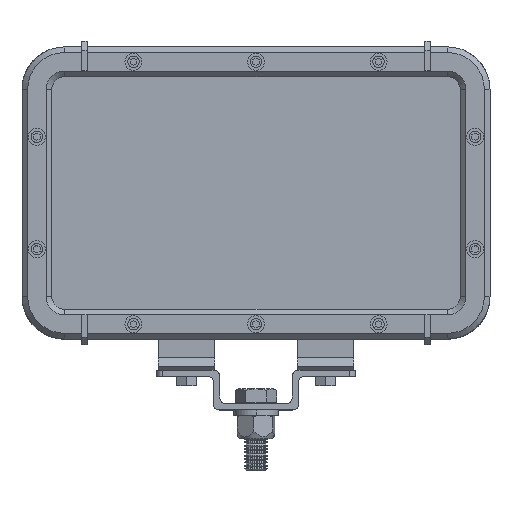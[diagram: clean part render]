
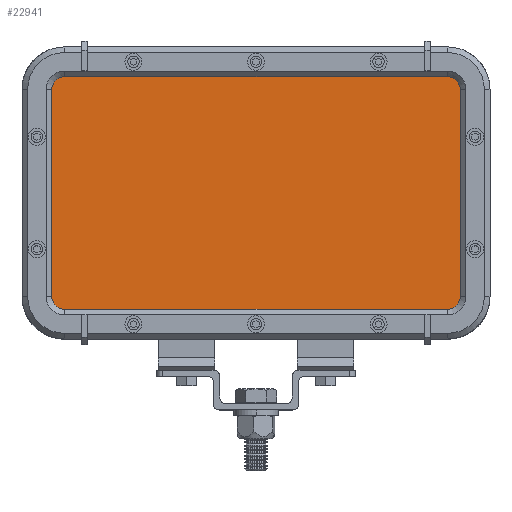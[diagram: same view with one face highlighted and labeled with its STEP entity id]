
A CAD part, top view. The second image highlights one B-rep face of the part: STEP entity #22941.
In plain terms, the highlighted planar face has unit normal (0, 0, 1).
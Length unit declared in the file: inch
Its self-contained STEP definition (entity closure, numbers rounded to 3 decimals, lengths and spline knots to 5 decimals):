
#122 = EDGE_CURVE ( 'NONE', #13966, #10647, #2740, .T. ) ;
#463 = LINE ( 'NONE', #17890, #1412 ) ;
#1273 = ORIENTED_EDGE ( 'NONE', *, *, #3769, .T. ) ;
#1412 = VECTOR ( 'NONE', #15753, 39.37008 ) ;
#1488 = CARTESIAN_POINT ( 'NONE',  ( 3.6, -1.825, -0.3 ) ) ;
#2740 = LINE ( 'NONE', #17754, #3317 ) ;
#3126 = DIRECTION ( 'NONE',  ( 0., 0., 1. ) ) ;
#3317 = VECTOR ( 'NONE', #10900, 39.37008 ) ;
#3575 = AXIS2_PLACEMENT_3D ( 'NONE', #16053, #18051, #26773 ) ;
#3687 = EDGE_LOOP ( 'NONE', ( #22049, #1273, #6745, #24976, #26017, #18878, #24579, #27453 ) ) ;
#3769 = EDGE_CURVE ( 'NONE', #24520, #9638, #5228, .T. ) ;
#5228 = LINE ( 'NONE', #9645, #24561 ) ;
#5418 = CARTESIAN_POINT ( 'NONE',  ( -3.375, -1.825, -0.3 ) ) ;
#5715 = DIRECTION ( 'NONE',  ( 1., 0., 0. ) ) ;
#6674 = VERTEX_POINT ( 'NONE', #25468 ) ;
#6745 = ORIENTED_EDGE ( 'NONE', *, *, #25267, .T. ) ;
#6831 = CARTESIAN_POINT ( 'NONE',  ( 3.375, -1.825, -0.3 ) ) ;
#6935 = EDGE_CURVE ( 'NONE', #10647, #6971, #8259, .T. ) ;
#6971 = VERTEX_POINT ( 'NONE', #26871 ) ;
#8259 = CIRCLE ( 'NONE', #21517, 0.225 ) ;
#8330 = DIRECTION ( 'NONE',  ( 0., -1., 0. ) ) ;
#8418 = DIRECTION ( 'NONE',  ( 1., 0., 0. ) ) ;
#8695 = DIRECTION ( 'NONE',  ( 0., 0., 1. ) ) ;
#8961 = PLANE ( 'NONE',  #13237 ) ;
#9638 = VERTEX_POINT ( 'NONE', #24166 ) ;
#9645 = CARTESIAN_POINT ( 'NONE',  ( 3.6, -1.825, -0.3 ) ) ;
#10647 = VERTEX_POINT ( 'NONE', #21152 ) ;
#10900 = DIRECTION ( 'NONE',  ( -1., 0., 0. ) ) ;
#11858 = DIRECTION ( 'NONE',  ( -1., 0., 0. ) ) ;
#12752 = EDGE_CURVE ( 'NONE', #6674, #22965, #463, .T. ) ;
#12910 = LINE ( 'NONE', #27935, #16589 ) ;
#13237 = AXIS2_PLACEMENT_3D ( 'NONE', #6831, #8695, #8418 ) ;
#13709 = CARTESIAN_POINT ( 'NONE',  ( -3.6, -1.825, -0.3 ) ) ;
#13966 = VERTEX_POINT ( 'NONE', #22210 ) ;
#14527 = EDGE_CURVE ( 'NONE', #26543, #6674, #14769, .T. ) ;
#14769 = CIRCLE ( 'NONE', #15214, 0.225 ) ;
#15214 = AXIS2_PLACEMENT_3D ( 'NONE', #5418, #3126, #11858 ) ;
#15753 = DIRECTION ( 'NONE',  ( 1., 0., 0. ) ) ;
#16053 = CARTESIAN_POINT ( 'NONE',  ( 3.375, -1.825, -0.3 ) ) ;
#16530 = DIRECTION ( 'NONE',  ( -1., 0., 0. ) ) ;
#16578 = CARTESIAN_POINT ( 'NONE',  ( 3.375, 1.825, -0.3 ) ) ;
#16589 = VECTOR ( 'NONE', #8330, 39.37008 ) ;
#17239 = CIRCLE ( 'NONE', #3575, 0.225 ) ;
#17754 = CARTESIAN_POINT ( 'NONE',  ( 3.375, 2.05, -0.3 ) ) ;
#17890 = CARTESIAN_POINT ( 'NONE',  ( -3.375, -2.05, -0.3 ) ) ;
#18051 = DIRECTION ( 'NONE',  ( 0., 0., 1. ) ) ;
#18384 = DIRECTION ( 'NONE',  ( 0., 1., 0. ) ) ;
#18878 = ORIENTED_EDGE ( 'NONE', *, *, #28223, .T. ) ;
#19568 = FACE_OUTER_BOUND ( 'NONE', #3687, .T. ) ;
#21152 = CARTESIAN_POINT ( 'NONE',  ( -3.375, 2.05, -0.3 ) ) ;
#21370 = EDGE_CURVE ( 'NONE', #22965, #24520, #17239, .T. ) ;
#21517 = AXIS2_PLACEMENT_3D ( 'NONE', #27407, #26728, #16530 ) ;
#22049 = ORIENTED_EDGE ( 'NONE', *, *, #21370, .T. ) ;
#22210 = CARTESIAN_POINT ( 'NONE',  ( 3.375, 2.05, -0.3 ) ) ;
#22941 = ADVANCED_FACE ( 'NONE', ( #19568 ), #8961, .T. ) ;
#22965 = VERTEX_POINT ( 'NONE', #28022 ) ;
#24166 = CARTESIAN_POINT ( 'NONE',  ( 3.6, 1.825, -0.3 ) ) ;
#24520 = VERTEX_POINT ( 'NONE', #1488 ) ;
#24561 = VECTOR ( 'NONE', #18384, 39.37008 ) ;
#24579 = ORIENTED_EDGE ( 'NONE', *, *, #14527, .T. ) ;
#24976 = ORIENTED_EDGE ( 'NONE', *, *, #122, .T. ) ;
#25267 = EDGE_CURVE ( 'NONE', #9638, #13966, #26989, .T. ) ;
#25310 = DIRECTION ( 'NONE',  ( 0., 0., 1. ) ) ;
#25468 = CARTESIAN_POINT ( 'NONE',  ( -3.375, -2.05, -0.3 ) ) ;
#26017 = ORIENTED_EDGE ( 'NONE', *, *, #6935, .T. ) ;
#26076 = AXIS2_PLACEMENT_3D ( 'NONE', #16578, #25310, #5715 ) ;
#26543 = VERTEX_POINT ( 'NONE', #13709 ) ;
#26728 = DIRECTION ( 'NONE',  ( 0., 0., 1. ) ) ;
#26773 = DIRECTION ( 'NONE',  ( 1., 0., 0. ) ) ;
#26871 = CARTESIAN_POINT ( 'NONE',  ( -3.6, 1.825, -0.3 ) ) ;
#26989 = CIRCLE ( 'NONE', #26076, 0.225 ) ;
#27407 = CARTESIAN_POINT ( 'NONE',  ( -3.375, 1.825, -0.3 ) ) ;
#27453 = ORIENTED_EDGE ( 'NONE', *, *, #12752, .T. ) ;
#27935 = CARTESIAN_POINT ( 'NONE',  ( -3.6, -1.825, -0.3 ) ) ;
#28022 = CARTESIAN_POINT ( 'NONE',  ( 3.375, -2.05, -0.3 ) ) ;
#28223 = EDGE_CURVE ( 'NONE', #6971, #26543, #12910, .T. ) ;
